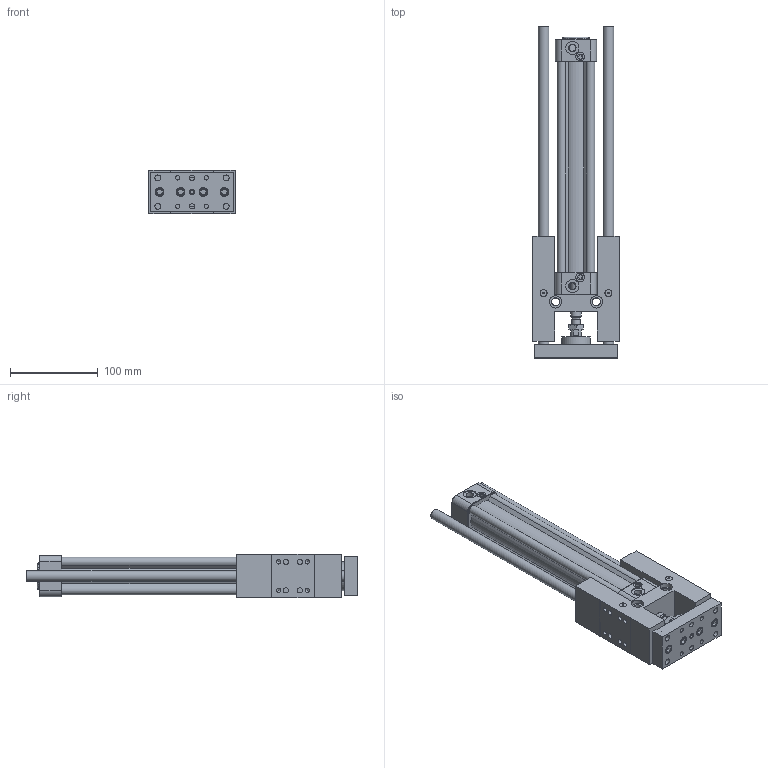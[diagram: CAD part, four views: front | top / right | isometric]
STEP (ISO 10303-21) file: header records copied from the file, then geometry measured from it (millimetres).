
FILE_DESCRIPTION((''),'2;1');
FILE_NAME('I:\3D電子目錄\氣缸\GHB(U)\GHB(U)\GHB(U)32\GHB(U)32x200.stp','2007-10-19T10:41:17',('Administrator'),(''),'Autodesk Inventor 11','Autodesk Inventor 11','');
FILE_SCHEMA(('AUTOMOTIVE_DESIGN { 1 0 10303 214 1 1 1 1 }'));
Length unit declared in the file: millimetre
Products named in the file (1): GHB(U)32
Bounding box: 99 x 379 x 50.2 mm (x, y, z)
Volume: 741325.1 mm3; surface area: 213893.6 mm2
Topology: 17 solids, 17 shells, 738 faces, 1598 edges, 986 vertices
Faces by surface type: plane 291, bspline 199, cylinder 159, cone 80, torus 9
Full cylindrical faces by diameter (mm): 2.6 x2, 4.9 x2, 4.917 x4, 5 x5, 5.5 x10, 6 x11, 6.5 x8, 7.5 x1, 7.8 x4, 7.9 x3, 8 x5, 9 x8, 10 x7, 10.2 x8, 12 x4, 13 x1, 14 x1, 15 x2, 17 x2, 30 x1, 32 x1, 33 x1
Entity records: 20771 total; most frequent: CARTESIAN_POINT 6160, DIRECTION 2934, ORIENTED_EDGE 2754, EDGE_CURVE 1377, AXIS2_PLACEMENT_3D 1157, EDGE_LOOP 1056, VERTEX_POINT 953, FACE_OUTER_BOUND 738
